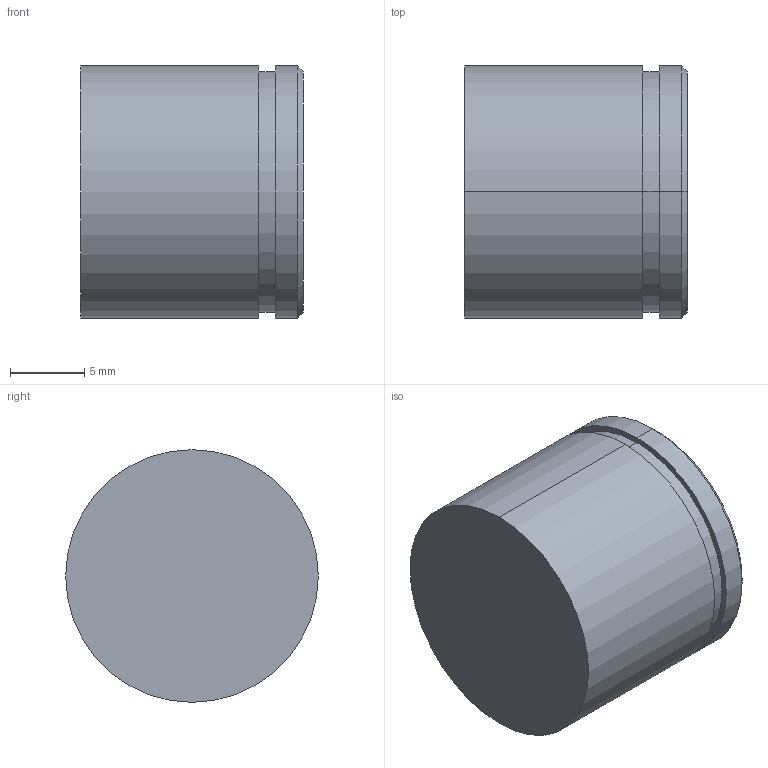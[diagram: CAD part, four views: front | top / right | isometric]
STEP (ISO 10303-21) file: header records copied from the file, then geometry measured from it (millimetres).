
FILE_DESCRIPTION (( 'STEP AP203' ), '1' );
FILE_NAME ('S5-17.STEP', '2002-08-16T10:50:57', ( '.' ), ( '.' ), 'SwSTEP 2.0', 'SolidWorks 2001340', '' );
FILE_SCHEMA (( 'CONFIG_CONTROL_DESIGN' ));
Length unit declared in the file: millimetre
Products named in the file (1): S5-17
Bounding box: 15 x 17 x 17 mm (x, y, z)
Volume: 3377.5 mm3; surface area: 1281.3 mm2
Topology: 1 solids, 1 shells, 12 faces, 22 edges, 14 vertices
Faces by surface type: cylinder 6, plane 4, cone 2
Entity records: 381 total; most frequent: DIRECTION 62, CARTESIAN_POINT 49, ORIENTED_EDGE 44, AXIS2_PLACEMENT_3D 27, EDGE_CURVE 22, EDGE_LOOP 14, VERTEX_POINT 14, CIRCLE 14
